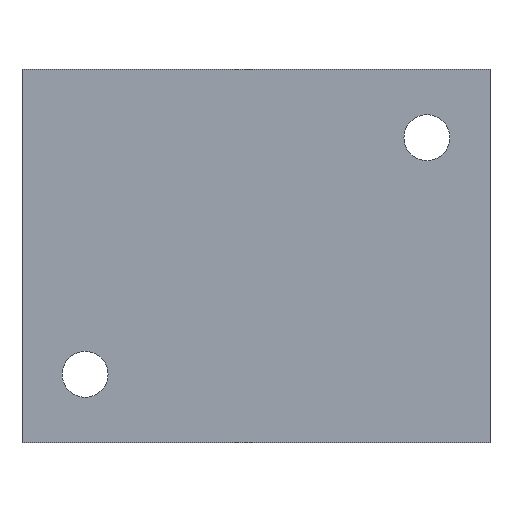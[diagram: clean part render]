
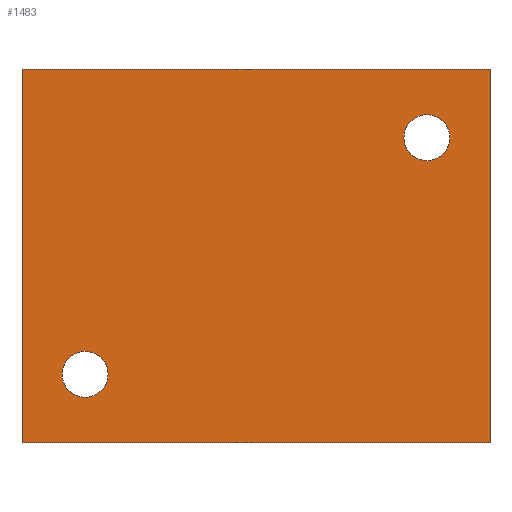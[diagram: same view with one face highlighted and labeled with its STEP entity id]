
A CAD part, front view. The second image highlights one B-rep face of the part: STEP entity #1483.
In plain terms, the highlighted planar face has unit normal (0, -1, 0).
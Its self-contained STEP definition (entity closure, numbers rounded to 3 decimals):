
#35 = EDGE_CURVE ( 'NONE', #523, #137, #921, .T. ) ;
#38 = ORIENTED_EDGE ( 'NONE', *, *, #1855, .F. ) ;
#68 = AXIS2_PLACEMENT_3D ( 'NONE', #1911, #570, #403 ) ;
#107 = LINE ( 'NONE', #779, #750 ) ;
#137 = VERTEX_POINT ( 'NONE', #1655 ) ;
#275 = DIRECTION ( 'NONE',  ( 0., 0., -1. ) ) ;
#318 = DIRECTION ( 'NONE',  ( 0., 1., 0. ) ) ;
#403 = DIRECTION ( 'NONE',  ( 0., 0., -1. ) ) ;
#435 = ORIENTED_EDGE ( 'NONE', *, *, #735, .F. ) ;
#523 = VERTEX_POINT ( 'NONE', #1613 ) ;
#570 = DIRECTION ( 'NONE',  ( 0., -1., 0. ) ) ;
#615 = ORIENTED_EDGE ( 'NONE', *, *, #35, .F. ) ;
#636 = FACE_BOUND ( 'NONE', #2025, .T. ) ;
#709 = VECTOR ( 'NONE', #275, 1000. ) ;
#735 = EDGE_CURVE ( 'NONE', #137, #523, #793, .T. ) ;
#750 = VECTOR ( 'NONE', #1425, 1000. ) ;
#770 = AXIS2_PLACEMENT_3D ( 'NONE', #1595, #919, #1627 ) ;
#779 = CARTESIAN_POINT ( 'NONE',  ( -89., -69., 71. ) ) ;
#793 = CIRCLE ( 'NONE', #1997, 8.75 ) ;
#815 = ORIENTED_EDGE ( 'NONE', *, *, #1369, .F. ) ;
#837 = ORIENTED_EDGE ( 'NONE', *, *, #2085, .F. ) ;
#846 = ORIENTED_EDGE ( 'NONE', *, *, #1341, .T. ) ;
#914 = AXIS2_PLACEMENT_3D ( 'NONE', #1838, #318, #1661 ) ;
#919 = DIRECTION ( 'NONE',  ( 0., -1., 0. ) ) ;
#921 = CIRCLE ( 'NONE', #1104, 8.75 ) ;
#932 = LINE ( 'NONE', #1609, #709 ) ;
#949 = LINE ( 'NONE', #1459, #1871 ) ;
#965 = FACE_OUTER_BOUND ( 'NONE', #1069, .T. ) ;
#976 = CARTESIAN_POINT ( 'NONE',  ( -89., -69., -71. ) ) ;
#1015 = CIRCLE ( 'NONE', #68, 8.75 ) ;
#1036 = CARTESIAN_POINT ( 'NONE',  ( 65., -69., 36.25 ) ) ;
#1037 = CARTESIAN_POINT ( 'NONE',  ( -65., -69., -45. ) ) ;
#1069 = EDGE_LOOP ( 'NONE', ( #2097, #815, #837, #846 ) ) ;
#1104 = AXIS2_PLACEMENT_3D ( 'NONE', #1814, #2135, #1328 ) ;
#1137 = FACE_BOUND ( 'NONE', #1447, .T. ) ;
#1160 = PLANE ( 'NONE',  #914 ) ;
#1202 = DIRECTION ( 'NONE',  ( 0., 0., -1. ) ) ;
#1214 = CARTESIAN_POINT ( 'NONE',  ( 65., -69., 53.75 ) ) ;
#1273 = VERTEX_POINT ( 'NONE', #1926 ) ;
#1297 = CIRCLE ( 'NONE', #770, 8.75 ) ;
#1320 = ORIENTED_EDGE ( 'NONE', *, *, #1970, .F. ) ;
#1328 = DIRECTION ( 'NONE',  ( 0., 0., -1. ) ) ;
#1341 = EDGE_CURVE ( 'NONE', #1493, #1437, #107, .T. ) ;
#1369 = EDGE_CURVE ( 'NONE', #1419, #1273, #932, .T. ) ;
#1419 = VERTEX_POINT ( 'NONE', #1850 ) ;
#1425 = DIRECTION ( 'NONE',  ( 0., 0., -1. ) ) ;
#1437 = VERTEX_POINT ( 'NONE', #976 ) ;
#1447 = EDGE_LOOP ( 'NONE', ( #435, #615 ) ) ;
#1459 = CARTESIAN_POINT ( 'NONE',  ( -89., -69., -71. ) ) ;
#1483 = ADVANCED_FACE ( 'NONE', ( #1137, #965, #636 ), #1160, .F. ) ;
#1493 = VERTEX_POINT ( 'NONE', #1539 ) ;
#1504 = CARTESIAN_POINT ( 'NONE',  ( -89., -69., 71. ) ) ;
#1539 = CARTESIAN_POINT ( 'NONE',  ( -89., -69., 71. ) ) ;
#1595 = CARTESIAN_POINT ( 'NONE',  ( 65., -69., 45. ) ) ;
#1609 = CARTESIAN_POINT ( 'NONE',  ( 89., -69., 71. ) ) ;
#1613 = CARTESIAN_POINT ( 'NONE',  ( -65., -69., -36.25 ) ) ;
#1627 = DIRECTION ( 'NONE',  ( 0., 0., -1. ) ) ;
#1634 = VERTEX_POINT ( 'NONE', #1214 ) ;
#1655 = CARTESIAN_POINT ( 'NONE',  ( -65., -69., -53.75 ) ) ;
#1661 = DIRECTION ( 'NONE',  ( 0., 0., 1. ) ) ;
#1669 = DIRECTION ( 'NONE',  ( 1., 0., 0. ) ) ;
#1705 = VERTEX_POINT ( 'NONE', #1036 ) ;
#1814 = CARTESIAN_POINT ( 'NONE',  ( -65., -69., -45. ) ) ;
#1838 = CARTESIAN_POINT ( 'NONE',  ( -89., -69., 71. ) ) ;
#1850 = CARTESIAN_POINT ( 'NONE',  ( 89., -69., 71. ) ) ;
#1855 = EDGE_CURVE ( 'NONE', #1634, #1705, #1015, .T. ) ;
#1871 = VECTOR ( 'NONE', #1973, 1000. ) ;
#1911 = CARTESIAN_POINT ( 'NONE',  ( 65., -69., 45. ) ) ;
#1926 = CARTESIAN_POINT ( 'NONE',  ( 89., -69., -71. ) ) ;
#1945 = EDGE_CURVE ( 'NONE', #1437, #1273, #949, .T. ) ;
#1970 = EDGE_CURVE ( 'NONE', #1705, #1634, #1297, .T. ) ;
#1973 = DIRECTION ( 'NONE',  ( 1., 0., 0. ) ) ;
#1997 = AXIS2_PLACEMENT_3D ( 'NONE', #1037, #2023, #1202 ) ;
#2009 = VECTOR ( 'NONE', #1669, 1000. ) ;
#2023 = DIRECTION ( 'NONE',  ( 0., -1., 0. ) ) ;
#2025 = EDGE_LOOP ( 'NONE', ( #1320, #38 ) ) ;
#2085 = EDGE_CURVE ( 'NONE', #1493, #1419, #2170, .T. ) ;
#2097 = ORIENTED_EDGE ( 'NONE', *, *, #1945, .T. ) ;
#2135 = DIRECTION ( 'NONE',  ( 0., -1., 0. ) ) ;
#2170 = LINE ( 'NONE', #1504, #2009 ) ;
